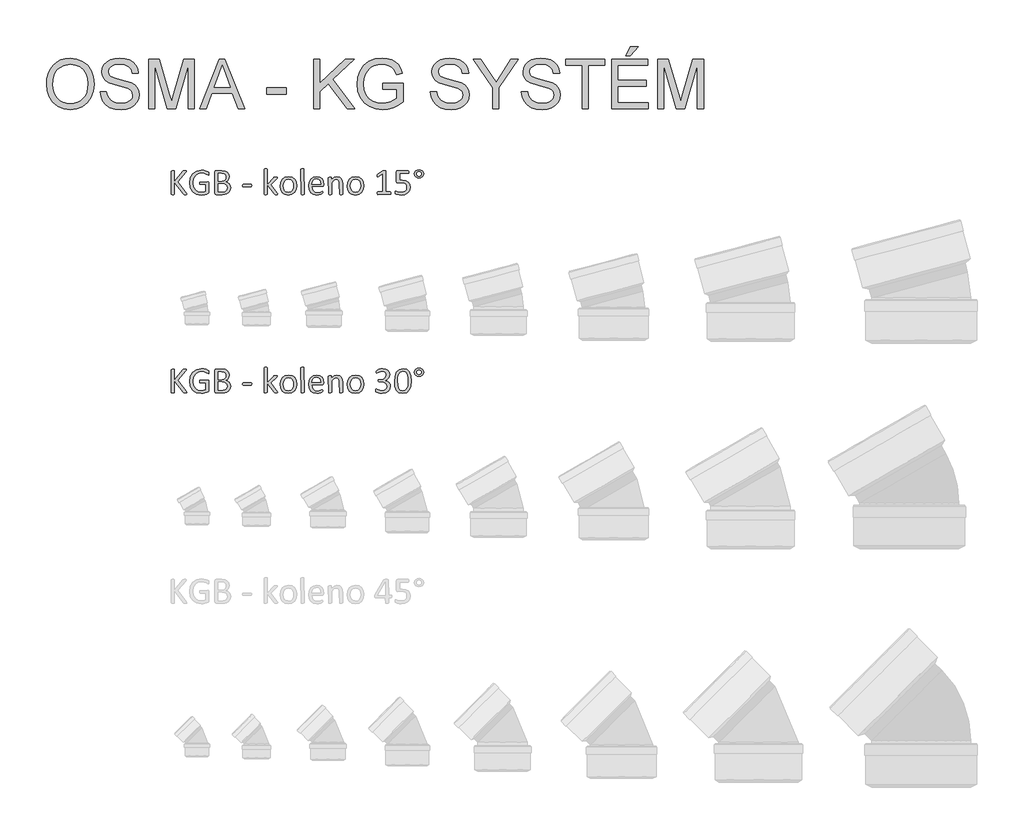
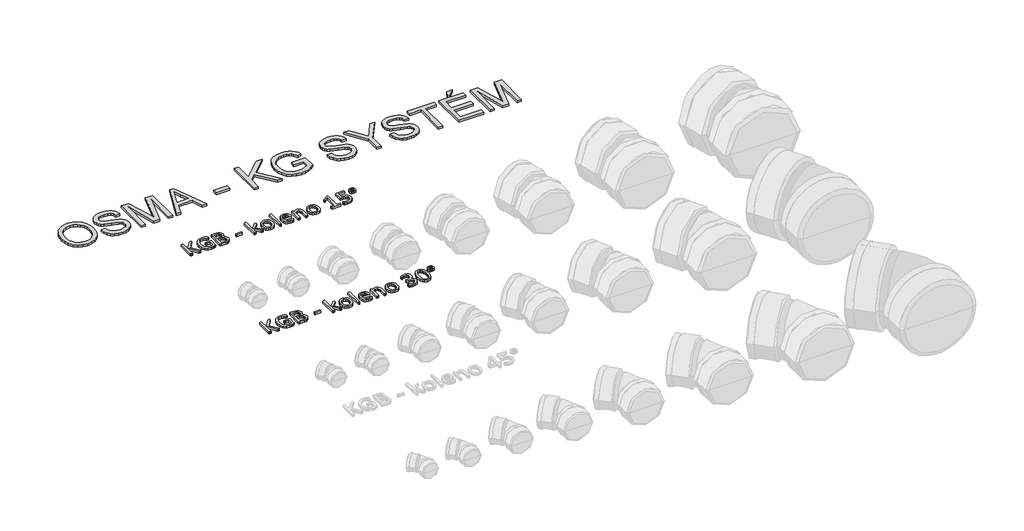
# One storey, part 11 of 11: 3 proxies.
"""IFC4 building model written with IfcOpenShell, lengths in millimetres."""

from ifc_helpers import new_model, si_unit, origin, origin_with_axes, place, context, project, spatial, polyline, outline, extrude, element, save

model = new_model("IFC4")

# Units and contexts
model_context = context("Model", 3, world=origin())
ifc_project = project(units=[si_unit("LENGTHUNIT", "METRE", prefix="MILLI")], contexts=[model_context])

# Site, building, storey
site = spatial("IfcSite", under=ifc_project)
building = spatial("IfcBuilding", under=site)
storey = spatial("IfcBuildingStorey", under=building, Name="Podlaží 1", Elevation=0.0)

# Proxies
placement = place(None, origin())
element("IfcBuildingElementProxy", 1, Name="100mm Arial", ObjectType="100mm Arial", at=placement, inside=storey, context=model_context, shape_type="SweptSolid", body=[
    extrude(outline(polyline([(-21168.6123917, 24019.0159257), (-21166.5200628, 24048.4733101), (-21160.2430763, 24074.5507786), (-21149.781432, 24097.2483313), (-21135.1351301, 24116.5659681), (-21117.1817223, 24131.9901872), (-21096.7987605, 24143.0074865), (-21073.9862447, 24149.6178661), (-21048.7441749, 24151.821326), (-21015.8034079, 24147.6826536), (-20986.2655494, 24135.2666362), (-20961.740083, 24115.4469937), (-20943.8364926, 24089.0974458), (-20932.8920032, 24057.4902511), (-20929.2438401, 24021.897668), (-20933.0836085, 23985.8299041), (-20944.6029134, 23953.7781853), (-20963.1656258, 23927.3826521), (-20988.1356162, 23908.2834452), (-21017.4205558, 23896.6951624), (-21048.9281159, 23892.8324014), (-21082.3747206, 23897.1013654), (-21112.0811917, 23909.9082573), (-21136.5453444, 23930.0957818), (-21154.2649938, 23956.5066434), (-21165.0255422, 23986.895229), (-21168.6123917, 24019.0159257)]), holes=[polyline([(-21137.2197947, 24018.7093574), (-21135.6505481, 23997.8972), (-21130.9428082, 23979.422626), (-21123.096575, 23963.2856356), (-21112.1118486, 23949.4862287), (-21098.7588818, 23938.4344404), (-21083.8079276, 23930.5403059), (-21067.2589859, 23925.8038252), (-21049.1120569, 23924.2249983), (-21030.6547274, 23925.8191536), (-21013.9103485, 23930.6016196), (-20998.8789201, 23938.5723961), (-20985.5604422, 23949.7314833), (-20974.65619, 23963.8221302), (-20966.8674383, 23980.5875857), (-20962.1941874, 24000.0278498), (-20960.636437, 24022.1429227), (-20963.3035815, 24049.9333418), (-20971.3050149, 24073.9529704), (-20984.4338036, 24093.5963361), (-21002.483014, 24108.2579664), (-21024.2570296, 24117.3860384), (-21048.5602339, 24120.4287291), (-21082.3287354, 24114.5656098), (-21111.0388594, 24096.9762519), (-21122.4930186, 24083.289892), (-21130.6745609, 24065.6832897), (-21135.5834863, 24044.1564448), (-21137.2197947, 24018.7093574)])]), origin_with_axes(), (0.0, 0.0, 1.0), 15.0),
    extrude(outline(polyline([(-20897.8512432, 23983.0861176), (-20866.4586463, 23983.0861176), (-20862.8564684, 23965.6653722), (-20856.3418914, 23951.6628638), (-20846.1791513, 23940.5497619), (-20831.6324841, 23931.7972361), (-20813.851521, 23926.1180578), (-20793.9858932, 23924.2249983), (-20776.49617, 23925.6582053), (-20761.183082, 23929.9578261), (-20748.7747289, 23936.763643), (-20739.9992104, 23945.7154382), (-20734.7798846, 23955.9931414), (-20733.0401094, 23966.7766824), (-20738.251771, 23986.3663987), (-20746.1918907, 23994.1149132), (-20759.5889267, 24000.621826), (-20805.2982646, 24012.6086477), (-20854.5024814, 24028.0903483), (-20870.129802, 24038.6516272), (-20881.2045829, 24051.450855), (-20887.8034662, 24066.21212), (-20890.003094, 24082.6595109), (-20887.2823001, 24101.0459465), (-20879.1199183, 24118.1907803), (-20865.7305465, 24132.7221191), (-20847.3287825, 24143.2680696), (-20825.2405344, 24149.6830119), (-20800.7917101, 24151.821326), (-20774.3042065, 24149.5833772), (-20751.1276408, 24142.8695308), (-20732.0897475, 24131.8177425), (-20718.0182612, 24116.5659681), (-20709.1124513, 24098.0645695), (-20705.5715871, 24077.2639083), (-20736.964184, 24077.2639083), (-20742.7276686, 24095.9952332), (-20754.7451471, 24109.5148966), (-20773.5224573, 24117.700271), (-20799.5654368, 24120.4287291), (-20826.2215531, 24117.7309278), (-20844.5083539, 24109.6375239), (-20855.0849613, 24097.7273443), (-20858.6104971, 24083.5792159), (-20856.1119652, 24071.5157521), (-20848.6163695, 24061.8128645), (-20830.8967201, 24053.1369808), (-20797.3581449, 24044.2771561), (-20741.8079636, 24028.519544), (-20723.9120374, 24017.1305305), (-20711.4270421, 24003.0743726), (-20704.0923949, 23986.5043544), (-20701.6475124, 23967.5737601), (-20704.4602769, 23948.2216343), (-20712.8985701, 23930.0191397), (-20726.6175029, 23914.3534981), (-20745.2721857, 23902.6119311), (-20767.7053232, 23895.2772838), (-20792.7596199, 23892.8324014), (-20823.5160876, 23895.468889), (-20848.8309673, 23903.3783519), (-20868.9954992, 23916.5914469), (-20884.300923, 23935.1388308), (-20894.126438, 23957.7329167), (-20897.8512432, 23983.0861176)])), origin_with_axes(), (0.0, 0.0, 1.0), 15.0),
    extrude(outline(polyline([(-20654.5586171, 23896.756476), (-20654.5586171, 24147.8972514), (-20600.5412774, 24147.8972514), (-20549.1604254, 23970.884698), (-20538.7984159, 23933.9125575), (-20527.5780151, 23973.9503813), (-20477.0555544, 24147.8972514), (-20423.0382148, 24147.8972514), (-20423.0382148, 23896.756476), (-20454.4308117, 23896.756476), (-20454.4308117, 24116.5046545), (-20517.5225739, 23896.756476), (-20560.074258, 23896.756476), (-20623.1660201, 24116.5046545), (-20623.1660201, 23896.756476), (-20654.5586171, 23896.756476)])), origin_with_axes(), (0.0, 0.0, 1.0), 15.0),
    extrude(outline(polyline([(-20397.3477888, 23896.756476), (-20297.0999451, 24147.8972514), (-20270.3671868, 24147.8972514), (-20170.1193431, 23896.756476), (-20203.2900363, 23896.756476), (-20232.0461456, 23975.2379683), (-20335.4822999, 23975.2379683), (-20364.1770955, 23896.756476), (-20397.3477888, 23896.756476)]), holes=[polyline([(-20323.9553307, 24006.6305652), (-20243.5118011, 24006.6305652), (-20266.1365438, 24068.3734268), (-20283.7335659, 24116.5046545), (-20299.3685507, 24073.7690294), (-20323.9553307, 24006.6305652)])]), origin_with_axes(), (0.0, 0.0, 1.0), 15.0),
    extrude(outline(polyline([(-20058.0992755, 23971.3138937), (-20058.0992755, 24002.7064906), (-19959.9974102, 24002.7064906), (-19959.9974102, 23971.3138937), (-20058.0992755, 23971.3138937)])), origin_with_axes(), (0.0, 0.0, 1.0), 15.0),
    extrude(outline(polyline([(-19822.6547986, 23896.756476), (-19822.6547986, 24147.8972514), (-19791.2622017, 24147.8972514), (-19791.2622017, 24024.9633513), (-19662.5035034, 24147.8972514), (-19618.6029186, 24147.8972514), (-19726.6989116, 24044.6450381), (-19614.678844, 23896.756476), (-19653.0611989, 23896.756476), (-19748.9557723, 24023.4305097), (-19791.2622017, 23983.0861176), (-19791.2622017, 23896.756476), (-19822.6547986, 23896.756476)])), origin_with_axes(), (0.0, 0.0, 1.0), 15.0),
    extrude(outline(polyline([(-19473.4121579, 23994.8583414), (-19473.4121579, 24026.2509383), (-19371.3862179, 24026.2509383), (-19371.3862179, 23932.3797159), (-19396.1799315, 23915.1352474), (-19421.7553944, 23902.7652153), (-19448.0512928, 23895.3156049), (-19475.0063132, 23892.8324014), (-19510.22335, 23896.7794686), (-19542.0528068, 23908.6206704), (-19568.4943252, 23927.9421393), (-19587.5475469, 23954.3300083), (-19599.0668519, 23985.9831883), (-19602.9066202, 24021.1005904), (-19599.0821803, 24056.4709114), (-19587.6088606, 24089.3733573), (-19568.9618419, 24116.9721712), (-19543.6163053, 24136.4315959), (-19512.7448745, 24147.9738935), (-19477.5201735, 24151.821326), (-19451.6611349, 24149.5910414), (-19428.4079271, 24142.9001876), (-19408.8258751, 24132.2316098), (-19393.9803038, 24118.0681529), (-19382.9974934, 24099.7277026), (-19375.0037242, 24076.5281443), (-19403.9437745, 24068.3734268), (-19418.2605154, 24097.4054476), (-19428.6531818, 24106.8170953), (-19442.7246681, 24114.1440783), (-19459.5016199, 24118.8575664), (-19478.0106828, 24120.4287291), (-19499.6773995, 24118.7349391), (-19518.2017908, 24113.653569), (-19533.5148788, 24105.8207482), (-19545.5476858, 24095.8726059), (-19561.7038367, 24071.6843647), (-19569.0614766, 24047.9866329), (-19571.5140233, 24022.3881774), (-19568.5633031, 23992.3674737), (-19559.7111426, 23967.6657306), (-19545.225789, 23948.4592248), (-19525.3754897, 23934.924233), (-19502.1452745, 23926.899807), (-19477.5201735, 23924.2249983), (-19455.7768147, 23926.2406851), (-19434.5699506, 23932.2877454), (-19402.7788148, 23949.4862287), (-19402.7788148, 23994.8583414), (-19473.4121579, 23994.8583414)])), origin_with_axes(), (0.0, 0.0, 1.0), 15.0),
    extrude(outline(polyline([(-19234.0436064, 23983.0861176), (-19202.6510094, 23983.0861176), (-19199.0488316, 23965.6653722), (-19192.5342546, 23951.6628638), (-19182.3715144, 23940.5497619), (-19167.8248472, 23931.7972361), (-19150.0438841, 23926.1180578), (-19130.1782564, 23924.2249983), (-19112.6885332, 23925.6582053), (-19097.3754451, 23929.9578261), (-19084.967092, 23936.763643), (-19076.1915736, 23945.7154382), (-19070.9722478, 23955.9931414), (-19069.2324725, 23966.7766824), (-19074.4441341, 23986.3663987), (-19082.3842538, 23994.1149132), (-19095.7812898, 24000.621826), (-19141.4906277, 24012.6086477), (-19190.6948446, 24028.0903483), (-19206.3221652, 24038.6516272), (-19217.3969461, 24051.450855), (-19223.9958294, 24066.21212), (-19226.1954571, 24082.6595109), (-19223.4746632, 24101.0459465), (-19215.3122814, 24118.1907803), (-19201.9229096, 24132.7221191), (-19183.5211457, 24143.2680696), (-19161.4328976, 24149.6830119), (-19136.9840733, 24151.821326), (-19110.4965696, 24149.5833772), (-19087.3200039, 24142.8695308), (-19068.2821107, 24131.8177425), (-19054.2106244, 24116.5659681), (-19045.3048144, 24098.0645695), (-19041.7639502, 24077.2639083), (-19073.1565471, 24077.2639083), (-19078.9200317, 24095.9952332), (-19090.9375102, 24109.5148966), (-19109.7148204, 24117.700271), (-19135.7578, 24120.4287291), (-19162.4139162, 24117.7309278), (-19180.7007171, 24109.6375239), (-19191.2773244, 24097.7273443), (-19194.8028602, 24083.5792159), (-19192.3043283, 24071.5157521), (-19184.8087327, 24061.8128645), (-19167.0890832, 24053.1369808), (-19133.550508, 24044.2771561), (-19078.0003267, 24028.519544), (-19060.1044005, 24017.1305305), (-19047.6194053, 24003.0743726), (-19040.284758, 23986.5043544), (-19037.8398756, 23967.5737601), (-19040.65264, 23948.2216343), (-19049.0909333, 23930.0191397), (-19062.809866, 23914.3534981), (-19081.4645489, 23902.6119311), (-19103.8976864, 23895.2772838), (-19128.9519831, 23892.8324014), (-19159.7084507, 23895.468889), (-19185.0233305, 23903.3783519), (-19205.1878624, 23916.5914469), (-19220.4932862, 23935.1388308), (-19230.3188012, 23957.7329167), (-19234.0436064, 23983.0861176)])), origin_with_axes(), (0.0, 0.0, 1.0), 15.0),
    extrude(outline(polyline([(-18920.1176371, 23896.756476), (-18920.1176371, 24003.1356863), (-19018.2195025, 24147.8972514), (-18981.1860483, 24147.8972514), (-18928.8241777, 24070.5807187), (-18902.0301057, 24031.1560316), (-18875.1747201, 24073.4011474), (-18827.656629, 24147.8972514), (-18790.6231748, 24147.8972514), (-18888.7250402, 24003.1356863), (-18888.7250402, 23896.756476), (-18920.1176371, 23896.756476)])), origin_with_axes(), (0.0, 0.0, 1.0), 15.0),
    extrude(outline(polyline([(-18774.9268764, 23983.0861176), (-18743.5342795, 23983.0861176), (-18739.9321016, 23965.6653722), (-18733.4175246, 23951.6628638), (-18723.2547845, 23940.5497619), (-18708.7081172, 23931.7972361), (-18690.9271541, 23926.1180578), (-18671.0615264, 23924.2249983), (-18653.5718032, 23925.6582053), (-18638.2587152, 23929.9578261), (-18625.850362, 23936.763643), (-18617.0748436, 23945.7154382), (-18611.8555178, 23955.9931414), (-18610.1157425, 23966.7766824), (-18615.3274041, 23986.3663987), (-18623.2675239, 23994.1149132), (-18636.6645599, 24000.621826), (-18682.3738978, 24012.6086477), (-18731.5781146, 24028.0903483), (-18747.2054352, 24038.6516272), (-18758.2802161, 24051.450855), (-18764.8790994, 24066.21212), (-18767.0787271, 24082.6595109), (-18764.3579332, 24101.0459465), (-18756.1955515, 24118.1907803), (-18742.8061797, 24132.7221191), (-18724.4044157, 24143.2680696), (-18702.3161676, 24149.6830119), (-18677.8673433, 24151.821326), (-18651.3798397, 24149.5833772), (-18628.203274, 24142.8695308), (-18609.1653807, 24131.8177425), (-18595.0938944, 24116.5659681), (-18586.1880844, 24098.0645695), (-18582.6472202, 24077.2639083), (-18614.0398171, 24077.2639083), (-18619.8033017, 24095.9952332), (-18631.8207802, 24109.5148966), (-18650.5980904, 24117.700271), (-18676.64107, 24120.4287291), (-18703.2971862, 24117.7309278), (-18721.5839871, 24109.6375239), (-18732.1605944, 24097.7273443), (-18735.6861302, 24083.5792159), (-18733.1875983, 24071.5157521), (-18725.6920027, 24061.8128645), (-18707.9723532, 24053.1369808), (-18674.433778, 24044.2771561), (-18618.8835968, 24028.519544), (-18600.9876705, 24017.1305305), (-18588.5026753, 24003.0743726), (-18581.168028, 23986.5043544), (-18578.7231456, 23967.5737601), (-18581.53591, 23948.2216343), (-18589.9742033, 23930.0191397), (-18603.693136, 23914.3534981), (-18622.3478189, 23902.6119311), (-18644.7809564, 23895.2772838), (-18669.8352531, 23892.8324014), (-18700.5917207, 23895.468889), (-18725.9066005, 23903.3783519), (-18746.0711324, 23916.5914469), (-18761.3765562, 23935.1388308), (-18771.2020712, 23957.7329167), (-18774.9268764, 23983.0861176)])), origin_with_axes(), (0.0, 0.0, 1.0), 15.0),
    extrude(outline(polyline([(-18468.8490564, 23896.756476), (-18468.8490564, 24116.5046545), (-18551.2546233, 24116.5046545), (-18551.2546233, 24147.8972514), (-18355.0508925, 24147.8972514), (-18355.0508925, 24116.5046545), (-18437.4564595, 24116.5046545), (-18437.4564595, 23896.756476), (-18468.8490564, 23896.756476)])), origin_with_axes(), (0.0, 0.0, 1.0), 15.0),
    extrude(outline(polyline([(-18249.1008779, 24163.5935499), (-18225.5564302, 24210.6824452), (-18186.3156841, 24210.6824452), (-18225.5564302, 24163.5935499), (-18249.1008779, 24163.5935499)])), origin_with_axes(), (0.0, 0.0, 1.0), 15.0),
    extrude(outline(polyline([(-18319.734221, 23896.756476), (-18319.734221, 24147.8972514), (-18139.2267887, 24147.8972514), (-18139.2267887, 24116.5046545), (-18288.3416241, 24116.5046545), (-18288.3416241, 24041.9472368), (-18147.0749379, 24041.9472368), (-18147.0749379, 24010.5546399), (-18288.3416241, 24010.5546399), (-18288.3416241, 23928.1490729), (-18135.3027141, 23928.1490729), (-18135.3027141, 23896.756476), (-18319.734221, 23896.756476)])), origin_with_axes(), (0.0, 0.0, 1.0), 15.0),
    extrude(outline(polyline([(-18088.2138187, 23896.756476), (-18088.2138187, 24147.8972514), (-18034.1964791, 24147.8972514), (-17982.8156271, 23970.884698), (-17972.4536176, 23933.9125575), (-17961.2332167, 23973.9503813), (-17910.710756, 24147.8972514), (-17856.6934164, 24147.8972514), (-17856.6934164, 23896.756476), (-17888.0860133, 23896.756476), (-17888.0860133, 24116.5046545), (-17951.1777755, 23896.756476), (-17993.7294596, 23896.756476), (-18056.8212218, 24116.5046545), (-18056.8212218, 23896.756476), (-18088.2138187, 23896.756476)])), origin_with_axes(), (0.0, 0.0, 1.0), 15.0),
])
element("IfcBuildingElementProxy", 2, Name="120mm Arial", ObjectType="120mm Arial", at=placement, inside=storey, context=model_context, shape_type="SweptSolid", body=[
    extrude(outline(polyline([(-20461.7095957, 23468.4256246), (-20463.1390607, 23465.4038441), (-20465.6541954, 23464.8067258), (-20469.7254566, 23464.5714973), (-20475.0090489, 23464.8429147), (-20478.0670185, 23465.8562064), (-20479.7498064, 23467.5389944), (-20523.8641833, 23527.1784473), (-20523.8641833, 23467.5389944), (-20525.5650658, 23465.3676551), (-20528.062106, 23464.8067258), (-20531.9705167, 23464.5714973), (-20535.8427385, 23464.8067258), (-20538.3759677, 23465.3676551), (-20539.6968658, 23466.2904743), (-20539.6968658, 23582.0409538), (-20535.8427385, 23584.7732224), (-20531.9705167, 23585.0084509), (-20528.062106, 23584.7732224), (-20525.5650658, 23584.2122931), (-20523.8641833, 23529.0240857), (-20481.4144999, 23582.0409538), (-20480.0936018, 23583.4342299), (-20478.3022469, 23584.3208601), (-20475.7147342, 23584.8275059), (-20471.75204, 23585.0084509), (-20467.8798182, 23584.7732224), (-20465.5094395, 23584.1761041), (-20464.5685258, 23579.6524806), (-20466.8665265, 23576.3230936), (-20506.6382248, 23529.0240857), (-20463.7904625, 23472.4245078), (-20461.7095957, 23468.4256246)])), origin_with_axes(), (0.0, 0.0, 1.0), 15.0),
    extrude(outline(polyline([(-20350.1570388, 23569.2300519), (-20350.3379838, 23565.9549484), (-20350.8989131, 23563.5845697), (-20351.8398268, 23562.2455771), (-20356.7434347, 23563.6569477), (-20363.7279095, 23567.6377364), (-20374.1865272, 23571.6185251), (-20388.6259335, 23573.4279746), (-20406.4851993, 23569.7547922), (-20419.8751251, 23559.5856865), (-20428.2890649, 23544.1510829), (-20431.2203729, 23524.7537851), (-20428.0176475, 23504.0174947), (-20419.1332508, 23488.7638361), (-20405.5804746, 23479.3546991), (-20388.3364216, 23476.1519736), (-20377.0092683, 23477.4728717), (-20366.3697057, 23481.399377), (-20366.3697057, 23515.5255931), (-20393.40288, 23515.5255931), (-20395.7189753, 23517.208381), (-20396.478944, 23522.4376898), (-20396.2979991, 23525.6223208), (-20395.7008808, 23527.7936601), (-20355.7301431, 23529.4221646), (-20353.7216542, 23529.0602747), (-20351.8941103, 23527.9565106), (-20350.6094012, 23525.9118327), (-20350.1570388, 23522.9443357), (-20350.1570388, 23477.3462102), (-20350.9893856, 23473.1663821), (-20354.5178119, 23470.0722236), (-20361.4660977, 23467.15901), (-20370.2600219, 23464.4810249), (-20379.4339305, 23462.8163314), (-20388.5897446, 23462.2554021), (-20413.4334851, 23466.6342697), (-20431.9260582, 23479.1013762), (-20443.452251, 23498.462485), (-20447.4330398, 23523.6681154), (-20443.1446446, 23549.9051321), (-20431.039428, 23569.9357372), (-20412.2754375, 23582.7647336), (-20388.0469097, 23587.3245461), (-20375.1998188, 23586.148404), (-20364.5240672, 23583.3980409), (-20356.6710568, 23579.960087), (-20352.2921892, 23576.9202119), (-20350.6274957, 23574.0612818), (-20350.1570388, 23569.2300519)])), origin_with_axes(), (0.0, 0.0, 1.0), 15.0),
    extrude(outline(polyline([(-20241.3005616, 23498.6253355), (-20242.7300267, 23488.3114737), (-20246.7470044, 23479.8070615), (-20252.9715104, 23473.2025711), (-20261.1864108, 23468.4256246), (-20270.9755321, 23465.5305055), (-20282.9178983, 23464.5714973), (-20314.1489953, 23464.5714973), (-20318.1478786, 23466.0190569), (-20320.0478005, 23471.0855152), (-20320.0478005, 23578.4944329), (-20318.1297841, 23583.5608913), (-20314.0766174, 23585.0084509), (-20286.7177421, 23585.0084509), (-20269.0032323, 23582.927584), (-20257.5132284, 23576.8840229), (-20250.5830371, 23567.1491851), (-20248.2488474, 23554.1030547), (-20249.2802336, 23545.7976819), (-20252.3020141, 23538.4694117), (-20257.3322835, 23532.4620396), (-20264.2805693, 23528.119361), (-20255.3057001, 23524.7718796), (-20248.0317135, 23518.5654681), (-20243.110011, 23509.7534494), (-20241.3005616, 23498.6253355)]), holes=[polyline([(-20264.4615142, 23551.9317154), (-20265.6738453, 23559.9294819), (-20269.4736891, 23565.9911374), (-20276.24103, 23569.7909812), (-20287.2967659, 23571.1118793), (-20303.8351336, 23571.1118793), (-20303.8351336, 23531.7382599), (-20285.6320725, 23531.7382599), (-20275.6077227, 23533.3848588), (-20269.2927442, 23537.7999154), (-20265.6195618, 23544.2777444), (-20264.4615142, 23551.9317154)]), polyline([(-20257.5132284, 23498.4805795), (-20259.2141109, 23507.8173385), (-20264.1900968, 23514.5846794), (-20272.4049972, 23518.746413), (-20284.8359147, 23520.1577836), (-20303.8351336, 23520.1577836), (-20303.8351336, 23478.4680689), (-20280.782748, 23478.4680689), (-20271.265044, 23479.752778), (-20264.1177188, 23483.5526218), (-20259.2683944, 23489.8133168), (-20257.5132284, 23498.4805795)])]), origin_with_axes(), (0.0, 0.0, 1.0), 15.0),
    extrude(outline(polyline([(-20134.7601797, 23509.7715439), (-20135.6106209, 23505.2117313), (-20138.0895666, 23503.9451168), (-20177.6803199, 23503.9451168), (-20180.2316436, 23505.2479203), (-20181.0820849, 23509.7715439), (-20180.2316436, 23514.2589785), (-20177.6803199, 23515.5255931), (-20138.0895666, 23515.5255931), (-20134.9954081, 23512.485718), (-20134.7601797, 23509.7715439)])), origin_with_axes(), (0.0, 0.0, 1.0), 15.0),
    extrude(outline(polyline([(-20002.7427498, 23467.5028054), (-20006.814011, 23464.7524423), (-20010.8128943, 23464.5714973), (-20014.9384389, 23464.7162533), (-20017.6888021, 23465.1686156), (-20019.4982515, 23466.0733404), (-20020.7648661, 23467.5028054), (-20056.0129408, 23513.0647418), (-20056.0129408, 23467.3942384), (-20060.1384855, 23464.7524423), (-20064.1554632, 23464.5714973), (-20068.100063, 23464.7524423), (-20070.5971032, 23465.3133716), (-20072.2256076, 23591.3053348), (-20068.100063, 23594.0918869), (-20064.1554632, 23594.2728319), (-20060.1384855, 23594.0918869), (-20057.6957288, 23593.5309576), (-20056.4110197, 23592.5900439), (-20056.0129408, 23515.1637032), (-20023.8047411, 23549.3984862), (-20022.1943311, 23550.9003292), (-20020.1677478, 23551.8955264), (-20017.3811957, 23552.4383613), (-20013.4908794, 23552.5831172), (-20009.5100907, 23552.4383613), (-20006.922578, 23551.9859989), (-20005.493113, 23551.1717467), (-20005.6921524, 23547.6433203), (-20007.8092082, 23545.0919966), (-20039.800274, 23515.2722701), (-20005.0226561, 23471.809295), (-20003.2674902, 23469.2941603), (-20002.7427498, 23467.5028054)])), origin_with_axes(), (0.0, 0.0, 1.0), 15.0),
    extrude(outline(polyline([(-19907.7828442, 23509.482032), (-19910.4608293, 23490.5009075), (-19918.4766903, 23475.5548553), (-19931.830427, 23465.7657339), (-19950.4134726, 23462.2554021), (-19968.3270218, 23465.3495606), (-19981.0655458, 23474.3425242), (-19988.6652333, 23488.6733636), (-19991.1622735, 23507.7811495), (-19988.5204774, 23526.762274), (-19980.5588999, 23541.6902317), (-19967.2594467, 23551.4250696), (-19948.6402121, 23554.8992125), (-19930.7085683, 23551.805054), (-19917.9700444, 23542.8120903), (-19910.3341679, 23528.4812509), (-19907.7828442, 23509.482032)]), holes=[polyline([(-19923.995511, 23508.3963623), (-19925.2440311, 23520.9720358), (-19929.3514813, 23531.3582755), (-19937.0778303, 23538.4151282), (-19949.2554249, 23541.0026409), (-19960.8178067, 23538.6322622), (-19968.7793842, 23531.9372993), (-19973.4296692, 23521.6958156), (-19974.9496067, 23508.7582522), (-19973.7010866, 23496.1102008), (-19969.5574474, 23485.7601501), (-19961.7768149, 23478.7394863), (-19949.6173148, 23476.1519736), (-19938.091122, 23478.5223524), (-19930.0752611, 23485.1630318), (-19925.461165, 23495.3683265), (-19923.995511, 23508.3963623)])]), origin_with_axes(), (0.0, 0.0, 1.0), 15.0),
    extrude(outline(polyline([(-19870.72532, 23467.4304274), (-19874.8508647, 23464.7524423), (-19878.8678424, 23464.5714973), (-19882.8124422, 23464.7524423), (-19885.3094824, 23465.3133716), (-19886.9379868, 23591.3053348), (-19882.8124422, 23594.0918869), (-19878.8678424, 23594.2728319), (-19874.8508647, 23594.0918869), (-19872.408108, 23593.5309576), (-19870.72532, 23467.4304274)])), origin_with_axes(), (0.0, 0.0, 1.0), 15.0),
    extrude(outline(polyline([(-19771.1332238, 23512.8837969), (-19772.9245788, 23507.7811495), (-19777.0320289, 23506.261212), (-19831.3517006, 23506.261212), (-19829.9946135, 23492.8712863), (-19825.4890845, 23482.6659915), (-19817.2741841, 23476.1157846), (-19804.89755, 23473.8358784), (-19794.6198773, 23474.9034535), (-19786.8030558, 23477.3100213), (-19781.3928021, 23479.716589), (-19778.1900766, 23480.7841642), (-19775.8920758, 23477.8890451), (-19775.7654144, 23475.2472489), (-19775.8558868, 23473.311138), (-19780.3071324, 23467.9189788), (-19786.6582999, 23465.4219386), (-19795.705547, 23463.2325048), (-19806.6708105, 23462.2554021), (-19824.3491313, 23465.1505211), (-19837.1057498, 23473.7635004), (-19844.9225713, 23488.1124343), (-19847.5643674, 23508.1430394), (-19844.7959098, 23527.6850932), (-19836.8162378, 23542.3778225), (-19824.2224699, 23551.660298), (-19807.6841022, 23554.8992125), (-19791.0371675, 23551.768865), (-19779.7281086, 23543.3368307), (-19773.2140907, 23530.9059131), (-19771.1332238, 23515.670349), (-19771.1332238, 23512.8837969)]), holes=[polyline([(-19787.3458907, 23517.8416883), (-19788.5175092, 23528.46768), (-19792.5390105, 23536.5333008), (-19799.310875, 23541.6223773), (-19808.7335828, 23543.3187362), (-19818.3779482, 23541.2197748), (-19825.3081395, 23535.6285761), (-19829.6327236, 23527.5041482), (-19831.3517006, 23517.8416883), (-19787.3458907, 23517.8416883)])]), origin_with_axes(), (0.0, 0.0, 1.0), 15.0),
    extrude(outline(polyline([(-19676.1733182, 23467.4304274), (-19680.2988629, 23464.7524423), (-19684.2434626, 23464.5714973), (-19688.2604403, 23464.7524423), (-19690.703197, 23465.2952771), (-19692.385985, 23515.778916), (-19693.4535602, 23527.1422583), (-19696.5477187, 23534.5790955), (-19701.8132165, 23539.3560419), (-19709.2862426, 23541.0026409), (-19720.2696006, 23536.9675687), (-19731.7596044, 23525.115675), (-19731.7596044, 23467.4304274), (-19735.8851491, 23464.7524423), (-19739.9021268, 23464.5714973), (-19743.8467266, 23464.7524423), (-19746.3437668, 23465.2952771), (-19747.9722712, 23549.7603761), (-19744.2448054, 23552.4383613), (-19740.5897176, 23552.5831172), (-19737.0070077, 23552.4383613), (-19734.7994794, 23551.8955264), (-19733.3157309, 23538.8674906), (-19719.4734428, 23551.0450852), (-19705.5587768, 23554.8992125), (-19691.7345832, 23552.0764714), (-19682.6511471, 23544.5310673), (-19677.6751612, 23533.4753313), (-19676.1733182, 23518.2397672), (-19676.1733182, 23467.4304274)])), origin_with_axes(), (0.0, 0.0, 1.0), 15.0),
    extrude(outline(polyline([(-19569.6329362, 23509.482032), (-19572.3109214, 23490.5009075), (-19580.3267823, 23475.5548553), (-19593.680519, 23465.7657339), (-19612.2635646, 23462.2554021), (-19630.1771139, 23465.3495606), (-19642.9156378, 23474.3425242), (-19650.5153254, 23488.6733636), (-19653.0123656, 23507.7811495), (-19650.3705694, 23526.762274), (-19642.408992, 23541.6902317), (-19629.1095387, 23551.4250696), (-19610.4903042, 23554.8992125), (-19592.5586604, 23551.805054), (-19579.8201365, 23542.8120903), (-19572.1842599, 23528.4812509), (-19569.6329362, 23509.482032)]), holes=[polyline([(-19585.845603, 23508.3963623), (-19587.0941231, 23520.9720358), (-19591.2015733, 23531.3582755), (-19598.9279224, 23538.4151282), (-19611.105517, 23541.0026409), (-19622.6678988, 23538.6322622), (-19630.6294762, 23531.9372993), (-19635.2797612, 23521.6958156), (-19636.7996988, 23508.7582522), (-19635.5511787, 23496.1102008), (-19631.4075395, 23485.7601501), (-19623.626907, 23478.7394863), (-19611.4674068, 23476.1519736), (-19599.941214, 23478.5223524), (-19591.9253531, 23485.1630318), (-19587.3112571, 23495.3683265), (-19585.845603, 23508.3963623)])]), origin_with_axes(), (0.0, 0.0, 1.0), 15.0),
    extrude(outline(polyline([(-19432.9833159, 23471.4112161), (-19433.2547333, 23468.1903962), (-19433.9966075, 23466.0733404), (-19499.1367867, 23464.5714973), (-19502.1947563, 23468.1903962), (-19502.4661737, 23471.4112161), (-19502.1947563, 23474.5415636), (-19501.5071655, 23476.712903), (-19500.5119683, 23478.0157065), (-19474.6730306, 23478.4680689), (-19474.6730306, 23568.795784), (-19497.0016364, 23554.8992125), (-19499.733905, 23553.7954483), (-19501.3985985, 23554.2116217), (-19502.2490397, 23556.1839216), (-19502.4661737, 23559.63997), (-19502.3395122, 23562.2817661), (-19501.9414333, 23564.10931), (-19499.8605665, 23566.4796888), (-19473.189282, 23583.9227812), (-19468.8466034, 23584.9541674), (-19466.0238623, 23585.0084509), (-19462.242113, 23584.8275059), (-19459.8898288, 23584.3208601), (-19458.4603637, 23478.4680689), (-19436.3850808, 23478.4680689), (-19433.8880406, 23476.712903), (-19433.2185443, 23474.5415636), (-19432.9833159, 23471.4112161)])), origin_with_axes(), (0.0, 0.0, 1.0), 15.0),
    extrude(outline(polyline([(-19335.707315, 23502.2080453), (-19338.9824184, 23485.2173152), (-19348.2467994, 23472.6778307), (-19362.5052609, 23464.9152927), (-19380.9073615, 23462.2554021), (-19391.5650186, 23463.0515598), (-19400.5398877, 23465.0238597), (-19406.9996222, 23467.3218605), (-19410.2204421, 23469.1132154), (-19412.0479861, 23473.7092169), (-19412.1384585, 23476.6224305), (-19411.9937026, 23479.4813606), (-19411.4689622, 23481.5441329), (-19406.4567873, 23482.0145898), (-19401.1008171, 23479.6623055), (-19392.7592552, 23477.2738323), (-19380.9435505, 23476.1519736), (-19369.2726017, 23477.6176277), (-19360.1348821, 23482.2317237), (-19354.1094156, 23490.1209232), (-19351.9199818, 23501.6652105), (-19353.7475257, 23511.7619383), (-19359.3568189, 23519.0359249), (-19368.9469008, 23523.360509), (-19382.8253779, 23524.7899741), (-19392.6506883, 23524.2290448), (-19400.3046593, 23523.6681154), (-19404.0683141, 23524.8804466), (-19405.1901728, 23529.5669206), (-19405.1901728, 23578.9287008), (-19403.7426132, 23583.5066078), (-19399.5808795, 23585.0084509), (-19346.2021216, 23585.0084509), (-19343.5965144, 23583.3437574), (-19342.8908292, 23581.2086071), (-19342.6556007, 23578.168732), (-19343.5422309, 23572.9575177), (-19346.0211767, 23571.1118793), (-19388.9775059, 23571.1118793), (-19388.9775059, 23535.7190486), (-19382.6263385, 23536.2799779), (-19375.1533123, 23536.3704504), (-19357.9454483, 23533.9276937), (-19345.6773813, 23527.0336914), (-19338.2405441, 23516.2493728), (-19335.707315, 23502.2080453)])), origin_with_axes(), (0.0, 0.0, 1.0), 15.0),
    extrude(outline(polyline([(-19268.5405524, 23569.1576739), (-19270.2957183, 23560.8884901), (-19275.2355153, 23554.1030547), (-19282.7266359, 23549.5613367), (-19292.0633949, 23547.9509267), (-19301.255398, 23549.4346752), (-19308.4208177, 23553.6145034), (-19313.1615752, 23560.0742378), (-19314.8624576, 23568.4338941), (-19313.0530082, 23576.9383064), (-19308.0770223, 23583.6332693), (-19300.6401852, 23588.0302314), (-19291.3396151, 23589.6406414), (-19282.2018955, 23588.1207039), (-19274.9821924, 23583.9408757), (-19270.2414349, 23577.5173302), (-19268.5405524, 23569.1576739)]), holes=[polyline([(-19280.1210287, 23568.831973), (-19280.9895644, 23573.4279746), (-19283.4142267, 23577.1011569), (-19287.123598, 23579.5077246), (-19291.810072, 23580.3762603), (-19296.3336955, 23579.5077246), (-19299.9887834, 23577.1011569), (-19302.4134456, 23573.482258), (-19303.2819813, 23569.012918), (-19302.4134456, 23564.1997825), (-19299.9344999, 23560.4904112), (-19296.1346561, 23558.0838435), (-19291.4119931, 23557.2153077), (-19286.978842, 23558.1200324), (-19283.3780377, 23560.6170726), (-19280.9895644, 23564.290255), (-19280.1210287, 23568.831973)])]), origin_with_axes(), (0.0, 0.0, 1.0), 15.0),
])
element("IfcBuildingElementProxy", 3, Name="120mm Arial", ObjectType="120mm Arial", at=placement, inside=storey, context=model_context, shape_type="SweptSolid", body=[
    extrude(outline(polyline([(-20461.7095957, 22468.4256246), (-20463.1390607, 22465.4038441), (-20465.6541954, 22464.8067258), (-20469.7254566, 22464.5714973), (-20475.0090489, 22464.8429147), (-20478.0670185, 22465.8562064), (-20479.7498064, 22467.5389944), (-20523.8641833, 22527.1784473), (-20523.8641833, 22467.5389944), (-20525.5650658, 22465.3676551), (-20528.062106, 22464.8067258), (-20531.9705167, 22464.5714973), (-20535.8427385, 22464.8067258), (-20538.3759677, 22465.3676551), (-20539.6968658, 22466.2904743), (-20539.6968658, 22582.0409538), (-20535.8427385, 22584.7732224), (-20531.9705167, 22585.0084509), (-20528.062106, 22584.7732224), (-20525.5650658, 22584.2122931), (-20523.8641833, 22529.0240857), (-20481.4144999, 22582.0409538), (-20480.0936018, 22583.4342299), (-20478.3022469, 22584.3208601), (-20475.7147342, 22584.8275059), (-20471.75204, 22585.0084509), (-20467.8798182, 22584.7732224), (-20465.5094395, 22584.1761041), (-20464.5685258, 22579.6524806), (-20466.8665265, 22576.3230936), (-20506.6382248, 22529.0240857), (-20463.7904625, 22472.4245078), (-20461.7095957, 22468.4256246)])), origin_with_axes(), (0.0, 0.0, 1.0), 15.0),
    extrude(outline(polyline([(-20350.1570388, 22569.2300519), (-20350.3379838, 22565.9549484), (-20350.8989131, 22563.5845697), (-20351.8398268, 22562.2455771), (-20356.7434347, 22563.6569477), (-20363.7279095, 22567.6377364), (-20374.1865272, 22571.6185251), (-20388.6259335, 22573.4279746), (-20406.4851993, 22569.7547922), (-20419.8751251, 22559.5856865), (-20428.2890649, 22544.1510829), (-20431.2203729, 22524.7537851), (-20428.0176475, 22504.0174947), (-20419.1332508, 22488.7638361), (-20405.5804746, 22479.3546991), (-20388.3364216, 22476.1519736), (-20377.0092683, 22477.4728717), (-20366.3697057, 22481.399377), (-20366.3697057, 22515.5255931), (-20393.40288, 22515.5255931), (-20395.7189753, 22517.208381), (-20396.478944, 22522.4376898), (-20396.2979991, 22525.6223208), (-20395.7008808, 22527.7936601), (-20355.7301431, 22529.4221646), (-20353.7216542, 22529.0602747), (-20351.8941103, 22527.9565106), (-20350.6094012, 22525.9118327), (-20350.1570388, 22522.9443357), (-20350.1570388, 22477.3462102), (-20350.9893856, 22473.1663821), (-20354.5178119, 22470.0722236), (-20361.4660977, 22467.15901), (-20370.2600219, 22464.4810249), (-20379.4339305, 22462.8163314), (-20388.5897446, 22462.2554021), (-20413.4334851, 22466.6342697), (-20431.9260582, 22479.1013762), (-20443.452251, 22498.462485), (-20447.4330398, 22523.6681154), (-20443.1446446, 22549.9051321), (-20431.039428, 22569.9357372), (-20412.2754375, 22582.7647336), (-20388.0469097, 22587.3245461), (-20375.1998188, 22586.148404), (-20364.5240672, 22583.3980409), (-20356.6710568, 22579.960087), (-20352.2921892, 22576.9202119), (-20350.6274957, 22574.0612818), (-20350.1570388, 22569.2300519)])), origin_with_axes(), (0.0, 0.0, 1.0), 15.0),
    extrude(outline(polyline([(-20241.3005616, 22498.6253355), (-20242.7300267, 22488.3114737), (-20246.7470044, 22479.8070615), (-20252.9715104, 22473.2025711), (-20261.1864108, 22468.4256246), (-20270.9755321, 22465.5305055), (-20282.9178983, 22464.5714973), (-20314.1489953, 22464.5714973), (-20318.1478786, 22466.0190569), (-20320.0478005, 22471.0855152), (-20320.0478005, 22578.4944329), (-20318.1297841, 22583.5608913), (-20314.0766174, 22585.0084509), (-20286.7177421, 22585.0084509), (-20269.0032323, 22582.927584), (-20257.5132284, 22576.8840229), (-20250.5830371, 22567.1491851), (-20248.2488474, 22554.1030547), (-20249.2802336, 22545.7976819), (-20252.3020141, 22538.4694117), (-20257.3322835, 22532.4620396), (-20264.2805693, 22528.119361), (-20255.3057001, 22524.7718796), (-20248.0317135, 22518.5654681), (-20243.110011, 22509.7534494), (-20241.3005616, 22498.6253355)]), holes=[polyline([(-20264.4615142, 22551.9317154), (-20265.6738453, 22559.9294819), (-20269.4736891, 22565.9911374), (-20276.24103, 22569.7909812), (-20287.2967659, 22571.1118793), (-20303.8351336, 22571.1118793), (-20303.8351336, 22531.7382599), (-20285.6320725, 22531.7382599), (-20275.6077227, 22533.3848588), (-20269.2927442, 22537.7999154), (-20265.6195618, 22544.2777444), (-20264.4615142, 22551.9317154)]), polyline([(-20257.5132284, 22498.4805795), (-20259.2141109, 22507.8173385), (-20264.1900968, 22514.5846794), (-20272.4049972, 22518.746413), (-20284.8359147, 22520.1577836), (-20303.8351336, 22520.1577836), (-20303.8351336, 22478.4680689), (-20280.782748, 22478.4680689), (-20271.265044, 22479.752778), (-20264.1177188, 22483.5526218), (-20259.2683944, 22489.8133168), (-20257.5132284, 22498.4805795)])]), origin_with_axes(), (0.0, 0.0, 1.0), 15.0),
    extrude(outline(polyline([(-20134.7601797, 22509.7715439), (-20135.6106209, 22505.2117313), (-20138.0895666, 22503.9451168), (-20177.6803199, 22503.9451168), (-20180.2316436, 22505.2479203), (-20181.0820849, 22509.7715439), (-20180.2316436, 22514.2589785), (-20177.6803199, 22515.5255931), (-20138.0895666, 22515.5255931), (-20134.9954081, 22512.485718), (-20134.7601797, 22509.7715439)])), origin_with_axes(), (0.0, 0.0, 1.0), 15.0),
    extrude(outline(polyline([(-20002.7427498, 22467.5028054), (-20006.814011, 22464.7524423), (-20010.8128943, 22464.5714973), (-20014.9384389, 22464.7162533), (-20017.6888021, 22465.1686156), (-20019.4982515, 22466.0733404), (-20020.7648661, 22467.5028054), (-20056.0129408, 22513.0647418), (-20056.0129408, 22467.3942384), (-20060.1384855, 22464.7524423), (-20064.1554632, 22464.5714973), (-20068.100063, 22464.7524423), (-20070.5971032, 22465.3133716), (-20072.2256076, 22591.3053348), (-20068.100063, 22594.0918869), (-20064.1554632, 22594.2728319), (-20060.1384855, 22594.0918869), (-20057.6957288, 22593.5309576), (-20056.4110197, 22592.5900439), (-20056.0129408, 22515.1637032), (-20023.8047411, 22549.3984862), (-20022.1943311, 22550.9003292), (-20020.1677478, 22551.8955264), (-20017.3811957, 22552.4383613), (-20013.4908794, 22552.5831172), (-20009.5100907, 22552.4383613), (-20006.922578, 22551.9859989), (-20005.493113, 22551.1717467), (-20005.6921524, 22547.6433203), (-20007.8092082, 22545.0919966), (-20039.800274, 22515.2722701), (-20005.0226561, 22471.809295), (-20003.2674902, 22469.2941603), (-20002.7427498, 22467.5028054)])), origin_with_axes(), (0.0, 0.0, 1.0), 15.0),
    extrude(outline(polyline([(-19907.7828442, 22509.482032), (-19910.4608293, 22490.5009075), (-19918.4766903, 22475.5548553), (-19931.830427, 22465.7657339), (-19950.4134726, 22462.2554021), (-19968.3270218, 22465.3495606), (-19981.0655458, 22474.3425242), (-19988.6652333, 22488.6733636), (-19991.1622735, 22507.7811495), (-19988.5204774, 22526.762274), (-19980.5588999, 22541.6902317), (-19967.2594467, 22551.4250696), (-19948.6402121, 22554.8992125), (-19930.7085683, 22551.805054), (-19917.9700444, 22542.8120903), (-19910.3341679, 22528.4812509), (-19907.7828442, 22509.482032)]), holes=[polyline([(-19923.995511, 22508.3963623), (-19925.2440311, 22520.9720358), (-19929.3514813, 22531.3582755), (-19937.0778303, 22538.4151282), (-19949.2554249, 22541.0026409), (-19960.8178067, 22538.6322622), (-19968.7793842, 22531.9372993), (-19973.4296692, 22521.6958156), (-19974.9496067, 22508.7582522), (-19973.7010866, 22496.1102008), (-19969.5574474, 22485.7601501), (-19961.7768149, 22478.7394863), (-19949.6173148, 22476.1519736), (-19938.091122, 22478.5223524), (-19930.0752611, 22485.1630318), (-19925.461165, 22495.3683265), (-19923.995511, 22508.3963623)])]), origin_with_axes(), (0.0, 0.0, 1.0), 15.0),
    extrude(outline(polyline([(-19870.72532, 22467.4304274), (-19874.8508647, 22464.7524423), (-19878.8678424, 22464.5714973), (-19882.8124422, 22464.7524423), (-19885.3094824, 22465.3133716), (-19886.9379868, 22591.3053348), (-19882.8124422, 22594.0918869), (-19878.8678424, 22594.2728319), (-19874.8508647, 22594.0918869), (-19872.408108, 22593.5309576), (-19870.72532, 22467.4304274)])), origin_with_axes(), (0.0, 0.0, 1.0), 15.0),
    extrude(outline(polyline([(-19771.1332238, 22512.8837969), (-19772.9245788, 22507.7811495), (-19777.0320289, 22506.261212), (-19831.3517006, 22506.261212), (-19829.9946135, 22492.8712863), (-19825.4890845, 22482.6659915), (-19817.2741841, 22476.1157846), (-19804.89755, 22473.8358784), (-19794.6198773, 22474.9034535), (-19786.8030558, 22477.3100213), (-19781.3928021, 22479.716589), (-19778.1900766, 22480.7841642), (-19775.8920758, 22477.8890451), (-19775.7654144, 22475.2472489), (-19775.8558868, 22473.311138), (-19780.3071324, 22467.9189788), (-19786.6582999, 22465.4219386), (-19795.705547, 22463.2325048), (-19806.6708105, 22462.2554021), (-19824.3491313, 22465.1505211), (-19837.1057498, 22473.7635004), (-19844.9225713, 22488.1124343), (-19847.5643674, 22508.1430394), (-19844.7959098, 22527.6850932), (-19836.8162378, 22542.3778225), (-19824.2224699, 22551.660298), (-19807.6841022, 22554.8992125), (-19791.0371675, 22551.768865), (-19779.7281086, 22543.3368307), (-19773.2140907, 22530.9059131), (-19771.1332238, 22515.670349), (-19771.1332238, 22512.8837969)]), holes=[polyline([(-19787.3458907, 22517.8416883), (-19788.5175092, 22528.46768), (-19792.5390105, 22536.5333008), (-19799.310875, 22541.6223773), (-19808.7335828, 22543.3187362), (-19818.3779482, 22541.2197748), (-19825.3081395, 22535.6285761), (-19829.6327236, 22527.5041482), (-19831.3517006, 22517.8416883), (-19787.3458907, 22517.8416883)])]), origin_with_axes(), (0.0, 0.0, 1.0), 15.0),
    extrude(outline(polyline([(-19676.1733182, 22467.4304274), (-19680.2988629, 22464.7524423), (-19684.2434626, 22464.5714973), (-19688.2604403, 22464.7524423), (-19690.703197, 22465.2952771), (-19692.385985, 22515.778916), (-19693.4535602, 22527.1422583), (-19696.5477187, 22534.5790955), (-19701.8132165, 22539.3560419), (-19709.2862426, 22541.0026409), (-19720.2696006, 22536.9675687), (-19731.7596044, 22525.115675), (-19731.7596044, 22467.4304274), (-19735.8851491, 22464.7524423), (-19739.9021268, 22464.5714973), (-19743.8467266, 22464.7524423), (-19746.3437668, 22465.2952771), (-19747.9722712, 22549.7603761), (-19744.2448054, 22552.4383613), (-19740.5897176, 22552.5831172), (-19737.0070077, 22552.4383613), (-19734.7994794, 22551.8955264), (-19733.3157309, 22538.8674906), (-19719.4734428, 22551.0450852), (-19705.5587768, 22554.8992125), (-19691.7345832, 22552.0764714), (-19682.6511471, 22544.5310673), (-19677.6751612, 22533.4753313), (-19676.1733182, 22518.2397672), (-19676.1733182, 22467.4304274)])), origin_with_axes(), (0.0, 0.0, 1.0), 15.0),
    extrude(outline(polyline([(-19569.6329362, 22509.482032), (-19572.3109214, 22490.5009075), (-19580.3267823, 22475.5548553), (-19593.680519, 22465.7657339), (-19612.2635646, 22462.2554021), (-19630.1771139, 22465.3495606), (-19642.9156378, 22474.3425242), (-19650.5153254, 22488.6733636), (-19653.0123656, 22507.7811495), (-19650.3705694, 22526.762274), (-19642.408992, 22541.6902317), (-19629.1095387, 22551.4250696), (-19610.4903042, 22554.8992125), (-19592.5586604, 22551.805054), (-19579.8201365, 22542.8120903), (-19572.1842599, 22528.4812509), (-19569.6329362, 22509.482032)]), holes=[polyline([(-19585.845603, 22508.3963623), (-19587.0941231, 22520.9720358), (-19591.2015733, 22531.3582755), (-19598.9279224, 22538.4151282), (-19611.105517, 22541.0026409), (-19622.6678988, 22538.6322622), (-19630.6294762, 22531.9372993), (-19635.2797612, 22521.6958156), (-19636.7996988, 22508.7582522), (-19635.5511787, 22496.1102008), (-19631.4075395, 22485.7601501), (-19623.626907, 22478.7394863), (-19611.4674068, 22476.1519736), (-19599.941214, 22478.5223524), (-19591.9253531, 22485.1630318), (-19587.3112571, 22495.3683265), (-19585.845603, 22508.3963623)])]), origin_with_axes(), (0.0, 0.0, 1.0), 15.0),
    extrude(outline(polyline([(-19435.2994111, 22498.5167685), (-19438.1402467, 22483.5526218), (-19446.2646746, 22472.1349959), (-19459.3288995, 22464.8248203), (-19476.8805588, 22462.2554021), (-19487.9905783, 22463.2505993), (-19497.1825814, 22465.6390725), (-19503.8413552, 22468.4980026), (-19507.1707422, 22470.6331529), (-19508.2202228, 22471.9721455), (-19508.8535301, 22473.6006499), (-19509.2697035, 22475.9348397), (-19509.4144595, 22479.3004156), (-19508.7630577, 22484.0773621), (-19506.8812303, 22485.4163547), (-19503.5699378, 22483.9507006), (-19497.2006759, 22480.7841642), (-19488.1172398, 22477.6176277), (-19476.5910469, 22476.1519736), (-19465.7343504, 22477.7442891), (-19457.8813399, 22482.2136292), (-19453.1043934, 22489.053348), (-19451.512078, 22497.6844218), (-19453.5567558, 22506.9307083), (-19459.5279389, 22514.0056555), (-19469.2084933, 22518.5654681), (-19482.2727181, 22520.1577836), (-19493.9255724, 22520.1577836), (-19497.5082823, 22523.2157531), (-19497.8339832, 22526.1289667), (-19497.5444712, 22528.7888573), (-19496.730219, 22530.5078343), (-19483.2136318, 22531.7382599), (-19471.8683839, 22533.3486699), (-19463.3639717, 22537.9989549), (-19458.0080014, 22545.2548471), (-19456.1442685, 22554.6820785), (-19457.3927886, 22561.9017817), (-19461.1383489, 22567.9272483), (-19467.5257053, 22571.9623205), (-19476.48248, 22573.4279746), (-19486.7058692, 22571.9623205), (-19495.0112421, 22568.795784), (-19501.0548031, 22565.6292475), (-19504.420379, 22564.1635935), (-19506.9536082, 22567.2396575), (-19507.0983642, 22570.4966665), (-19507.0078917, 22572.9394232), (-19506.6279073, 22574.7850616), (-19504.6917965, 22577.7163697), (-19501.0909921, 22580.2495989), (-19494.3779348, 22583.5066078), (-19485.1678372, 22586.220782), (-19473.9492508, 22587.3245461), (-19459.093671, 22585.1532068), (-19448.4360139, 22579.0010788), (-19442.0486575, 22569.4833748), (-19439.9316017, 22557.2153077), (-19441.4334447, 22546.4671782), (-19445.8304068, 22537.673254), (-19452.9234485, 22531.1411416), (-19462.6220974, 22527.3955813), (-19451.5663614, 22524.0842888), (-19442.9533822, 22517.8778773), (-19437.3259945, 22509.1744256), (-19435.2994111, 22498.5167685)])), origin_with_axes(), (0.0, 0.0, 1.0), 15.0),
    extrude(outline(polyline([(-19331.0751244, 22525.079486), (-19333.2645582, 22499.5300602), (-19340.5385449, 22479.6804), (-19353.8199037, 22466.8152146), (-19374.0314537, 22462.2554021), (-19393.1754286, 22466.3447578), (-19405.6968186, 22478.3595019), (-19412.4460649, 22497.8834612), (-19414.4545538, 22524.5004622), (-19412.2108365, 22549.9956045), (-19404.9368498, 22569.8995482), (-19391.7097746, 22582.7647336), (-19371.6067915, 22587.3245461), (-19352.3542496, 22583.2351904), (-19339.8328596, 22571.2204463), (-19333.0836133, 22551.696487), (-19331.0751244, 22525.079486)]), holes=[polyline([(-19347.2877913, 22523.9576274), (-19347.939193, 22540.0798217), (-19349.8572094, 22552.6916842), (-19353.1504074, 22562.0827267), (-19357.9816373, 22568.5605556), (-19364.4051828, 22572.2699269), (-19372.5477052, 22573.4279746), (-19385.4852685, 22569.7186032), (-19393.3201845, 22559.531403), (-19397.2105008, 22544.3501223), (-19398.241887, 22525.6223208), (-19396.8305164, 22502.7870691), (-19392.3792708, 22487.442938), (-19384.5986383, 22478.8299588), (-19373.09054, 22476.1519736), (-19363.8442535, 22477.8166671), (-19356.9864402, 22482.5936136), (-19352.2637772, 22490.0485452), (-19349.2600911, 22499.6748161), (-19347.7039646, 22511.128631), (-19347.2877913, 22523.9576274)])]), origin_with_axes(), (0.0, 0.0, 1.0), 15.0),
    extrude(outline(polyline([(-19268.5405524, 22569.1576739), (-19270.2957183, 22560.8884901), (-19275.2355153, 22554.1030547), (-19282.7266359, 22549.5613367), (-19292.0633949, 22547.9509267), (-19301.255398, 22549.4346752), (-19308.4208177, 22553.6145034), (-19313.1615752, 22560.0742378), (-19314.8624576, 22568.4338941), (-19313.0530082, 22576.9383064), (-19308.0770223, 22583.6332693), (-19300.6401852, 22588.0302314), (-19291.3396151, 22589.6406414), (-19282.2018955, 22588.1207039), (-19274.9821924, 22583.9408757), (-19270.2414349, 22577.5173302), (-19268.5405524, 22569.1576739)]), holes=[polyline([(-19280.1210287, 22568.831973), (-19280.9895644, 22573.4279746), (-19283.4142267, 22577.1011569), (-19287.123598, 22579.5077246), (-19291.810072, 22580.3762603), (-19296.3336955, 22579.5077246), (-19299.9887834, 22577.1011569), (-19302.4134456, 22573.482258), (-19303.2819813, 22569.012918), (-19302.4134456, 22564.1997825), (-19299.9344999, 22560.4904112), (-19296.1346561, 22558.0838435), (-19291.4119931, 22557.2153077), (-19286.978842, 22558.1200324), (-19283.3780377, 22560.6170726), (-19280.9895644, 22564.290255), (-19280.1210287, 22568.831973)])]), origin_with_axes(), (0.0, 0.0, 1.0), 15.0),
])

save(model, "model.ifc")
